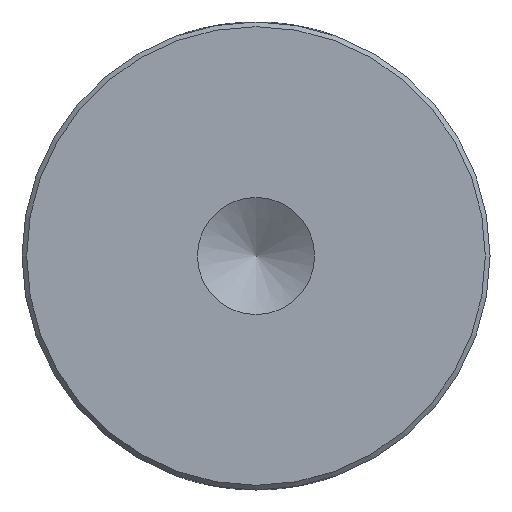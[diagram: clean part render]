
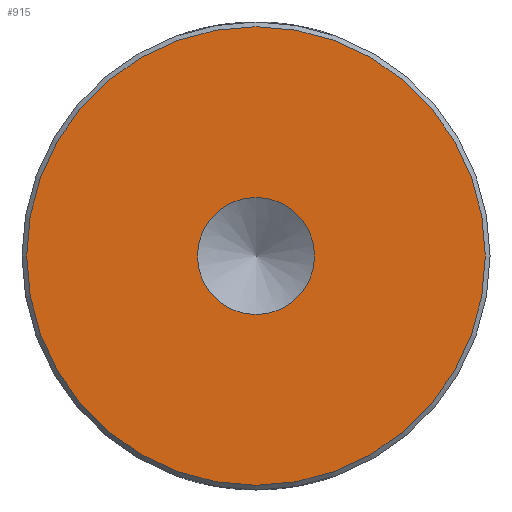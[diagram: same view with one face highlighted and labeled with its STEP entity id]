
A CAD part, front view. The second image highlights one B-rep face of the part: STEP entity #915.
In plain terms, the highlighted planar face has unit normal (0, -1, 0).
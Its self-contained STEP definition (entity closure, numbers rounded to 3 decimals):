
#228 = FACE_BOUND ( 'NONE', #956, .T. ) ;
#326 = ORIENTED_EDGE ( 'NONE', *, *, #947, .F. ) ;
#463 = CARTESIAN_POINT ( 'NONE',  ( 0., -29.205, 9.8 ) ) ;
#479 = CIRCLE ( 'NONE', #1968, 9.8 ) ;
#598 = CARTESIAN_POINT ( 'NONE',  ( 0., -29.205, 0. ) ) ;
#635 = DIRECTION ( 'NONE',  ( 0., 0., -1. ) ) ;
#753 = EDGE_LOOP ( 'NONE', ( #1772 ) ) ;
#828 = PLANE ( 'NONE',  #2645 ) ;
#842 = DIRECTION ( 'NONE',  ( 0., 0., 1. ) ) ;
#915 = ADVANCED_FACE ( 'NONE', ( #228, #1051 ), #828, .F. ) ;
#947 = EDGE_CURVE ( 'NONE', #2484, #2484, #1027, .T. ) ;
#956 = EDGE_LOOP ( 'NONE', ( #326 ) ) ;
#1027 = CIRCLE ( 'NONE', #2520, 2.5 ) ;
#1051 = FACE_OUTER_BOUND ( 'NONE', #753, .T. ) ;
#1246 = DIRECTION ( 'NONE',  ( 0., 1., 0. ) ) ;
#1322 = CARTESIAN_POINT ( 'NONE',  ( 0., -29.205, -2.5 ) ) ;
#1628 = DIRECTION ( 'NONE',  ( 0., 0., 1. ) ) ;
#1772 = ORIENTED_EDGE ( 'NONE', *, *, #2608, .T. ) ;
#1832 = CARTESIAN_POINT ( 'NONE',  ( 0., -29.205, 0. ) ) ;
#1968 = AXIS2_PLACEMENT_3D ( 'NONE', #598, #2259, #1628 ) ;
#2259 = DIRECTION ( 'NONE',  ( 0., -1., 0. ) ) ;
#2449 = CARTESIAN_POINT ( 'NONE',  ( 0., -29.205, 0. ) ) ;
#2484 = VERTEX_POINT ( 'NONE', #1322 ) ;
#2518 = VERTEX_POINT ( 'NONE', #463 ) ;
#2520 = AXIS2_PLACEMENT_3D ( 'NONE', #2449, #2649, #635 ) ;
#2608 = EDGE_CURVE ( 'NONE', #2518, #2518, #479, .T. ) ;
#2645 = AXIS2_PLACEMENT_3D ( 'NONE', #1832, #1246, #842 ) ;
#2649 = DIRECTION ( 'NONE',  ( 0., -1., 0. ) ) ;
